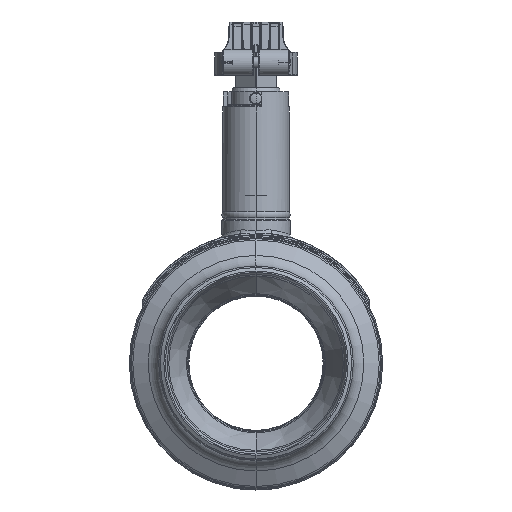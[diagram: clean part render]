
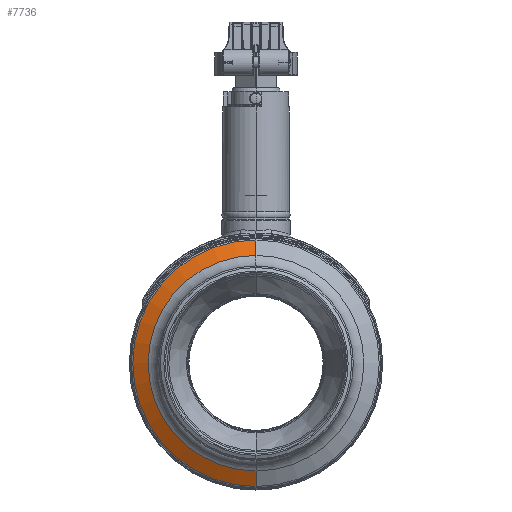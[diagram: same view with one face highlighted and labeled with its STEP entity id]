
A CAD part, left-side view. The second image highlights one B-rep face of the part: STEP entity #7736.
In plain terms, the highlighted conical face has half-angle 60.832 degrees and reference radius 84.313 mm.
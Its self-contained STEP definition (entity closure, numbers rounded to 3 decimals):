
#613=CARTESIAN_POINT('',(-65.631,0.,0.));
#614=DIRECTION('',(1.,0.,0.));
#615=DIRECTION('',(0.,0.,-1.));
#616=AXIS2_PLACEMENT_3D('',#613,#614,#615);
#618=CARTESIAN_POINT('',(-71.908,0.,0.));
#619=DIRECTION('',(1.,0.,0.));
#620=DIRECTION('',(0.,0.,-1.));
#621=AXIS2_PLACEMENT_3D('',#618,#619,#620);
#694=DIRECTION('',(-0.487,0.,0.873));
#695=VECTOR('',#694,12.881);
#696=CARTESIAN_POINT('',(-65.631,0.,
-89.937));
#697=LINE('',#696,#695);
#703=DIRECTION('',(-0.487,0.,-0.873));
#704=VECTOR('',#703,12.881);
#705=CARTESIAN_POINT('',(-65.631,0.,
89.937));
#706=LINE('',#705,#704);
#7012=CARTESIAN_POINT('',(-65.631,0.,
-89.937));
#7013=CARTESIAN_POINT('',(-65.631,0.,
89.937));
#7014=VERTEX_POINT('',#7012);
#7015=VERTEX_POINT('',#7013);
#7020=CARTESIAN_POINT('',(-71.908,0.,
78.69));
#7021=VERTEX_POINT('',#7020);
#7022=CARTESIAN_POINT('',(-71.908,0.,
-78.69));
#7023=VERTEX_POINT('',#7022);
#7722=CARTESIAN_POINT('',(-68.769,0.,0.));
#7723=DIRECTION('',(1.,0.,0.));
#7724=DIRECTION('',(0.,0.,1.));
#7725=AXIS2_PLACEMENT_3D('',#7722,#7723,#7724);
#7726=CONICAL_SURFACE('',#7725,84.313,60.832);
#7728=ORIENTED_EDGE('',*,*,#7727,.T.);
#7730=ORIENTED_EDGE('',*,*,#7729,.T.);
#7731=ORIENTED_EDGE('',*,*,#7716,.F.);
#7733=ORIENTED_EDGE('',*,*,#7732,.F.);
#7734=EDGE_LOOP('',(#7728,#7730,#7731,#7733));
#7735=FACE_OUTER_BOUND('',#7734,.F.);
#617=CIRCLE('',#616,89.937);
#622=CIRCLE('',#621,78.69);
#7716=EDGE_CURVE('',#7023,#7021,#622,.T.);
#7727=EDGE_CURVE('',#7014,#7015,#617,.T.);
#7729=EDGE_CURVE('',#7015,#7021,#706,.T.);
#7732=EDGE_CURVE('',#7014,#7023,#697,.T.);
#7736=ADVANCED_FACE('',(#7735),#7726,.T.);
